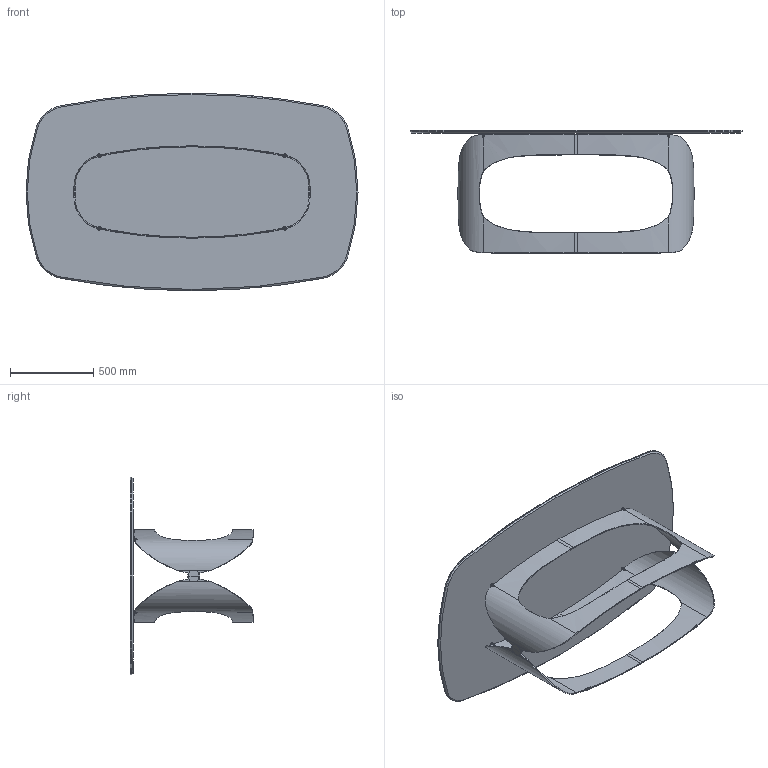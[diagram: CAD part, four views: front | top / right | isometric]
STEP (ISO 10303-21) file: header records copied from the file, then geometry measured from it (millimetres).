
FILE_DESCRIPTION (( 'STEP AP203' ), '1' );
FILE_NAME ('PO40C.STEP', '2024-08-06T14:05:44', ( '' ), ( '' ), 'SwSTEP 2.0', 'SolidWorks 2022', '' );
FILE_SCHEMA (( 'CONFIG_CONTROL_DESIGN' ));
Length unit declared in the file: millimetre
Products named in the file (11): PVC Ø19x3; PST0GR022-01-PIASTRA D22x22H mm+FILETTO M8 AVP-AVZ GREZZO; K4XCMXX-00-Piani Sagomati in ceramica_2000 x 1190; POL000000_02-02-CILINDRO DI FISSAGGIO Ø12X15 M8; PVC profilo Polifemo 9x8; POL000000-00-POLIFEMO BASE X PIANI 200-240_POL000000-00-POLIFEMO BASE L160; POL000000_03-01-POLIFEMO FREGIO COMPLETO; PO40C; POL000000_01-01-MEZZA BASE POLIFEMO X PIANI 200-240_POL000000_03-00-MEZZA BASE PLIFEMO L160; POL000000_03B-00-POLIFEMO FREGIO; POL000000_03A-01-POLIFEMO FREGIO
Assembly tree (24 placements, depth 3):
  PO40C
    POL000000-00-POLIFEMO BASE X PIANI 200-240_POL000000-00-POLIFEMO BASE L160
      POL000000_01-01-MEZZA BASE POLIFEMO X PIANI 200-240_POL000000_03-00-MEZZA BASE PLIFEMO L160  x2
      POL000000_02-02-CILINDRO DI FISSAGGIO Ø12X15 M8  x4
    POL000000_03-01-POLIFEMO FREGIO COMPLETO  x2
      POL000000_03A-01-POLIFEMO FREGIO
      POL000000_03B-00-POLIFEMO FREGIO
    PST0GR022-01-PIASTRA D22x22H mm+FILETTO M8 AVP-AVZ GREZZO  x4
    PVC Ø19x3  x4
    PVC profilo Polifemo 9x8  x3
    K4XCMXX-00-Piani Sagomati in ceramica_2000 x 1190
Bounding box: 2000 x 740.97 x 1190 mm (x, y, z)
Volume: 41431747.1 mm3; surface area: 11188268.6 mm2
Topology: 25 solids, 25 shells, 497 faces, 1229 edges, 788 vertices
Faces by surface type: cylinder 235, plane 153, bspline 80, cone 29
Entity records: 17359 total; most frequent: CARTESIAN_POINT 11296, ORIENTED_EDGE 1002, DIRECTION 878, EDGE_CURVE 501, AXIS2_PLACEMENT_3D 339, VERTEX_POINT 320, EDGE_LOOP 207, FACE_OUTER_BOUND 201
